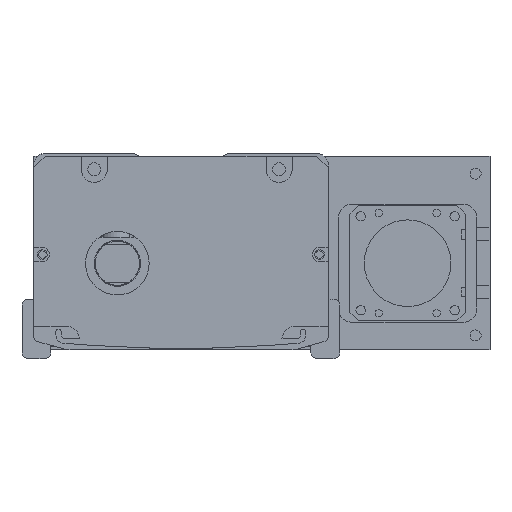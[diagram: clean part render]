
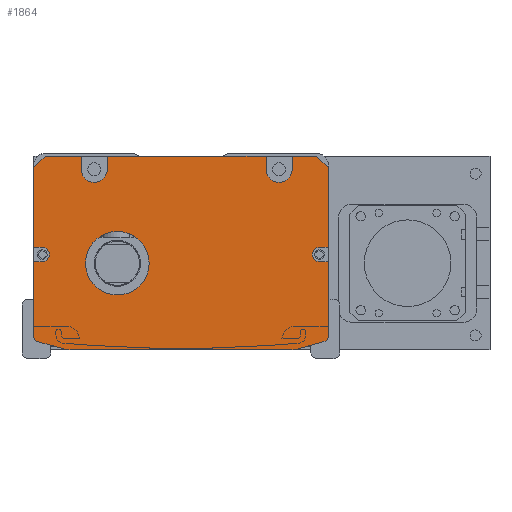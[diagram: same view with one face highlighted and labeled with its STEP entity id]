
A CAD part, front view. The second image highlights one B-rep face of the part: STEP entity #1864.
In plain terms, the highlighted planar face has unit normal (0, -1, 0).
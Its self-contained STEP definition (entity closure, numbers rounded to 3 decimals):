
#1864=ADVANCED_FACE('',(#4472,#4473),#2433,.F.);
#2433=PLANE('',#14301);
#2978=LINE('',#27368,#3779);
#2982=LINE('',#27377,#3783);
#2990=LINE('',#27404,#3791);
#2994=LINE('',#27413,#3795);
#3001=LINE('',#27429,#3802);
#3003=LINE('',#27434,#3804);
#3018=LINE('',#27477,#3819);
#3020=LINE('',#27485,#3821);
#3023=LINE('',#27489,#3824);
#3044=LINE('',#27557,#3845);
#3048=LINE('',#27566,#3849);
#3052=LINE('',#27575,#3853);
#3056=LINE('',#27584,#3857);
#3060=LINE('',#27600,#3861);
#3064=LINE('',#27606,#3865);
#3065=LINE('',#27607,#3866);
#3067=LINE('',#27623,#3868);
#3068=LINE('',#27624,#3869);
#3069=LINE('',#27625,#3870);
#3070=LINE('',#27626,#3871);
#3779=VECTOR('',#16883,1.);
#3783=VECTOR('',#16889,1.);
#3791=VECTOR('',#16911,1.);
#3795=VECTOR('',#16917,1.);
#3802=VECTOR('',#16926,1.);
#3804=VECTOR('',#16930,1.);
#3819=VECTOR('',#16969,1.);
#3821=VECTOR('',#16979,1.);
#3824=VECTOR('',#16984,1.);
#3845=VECTOR('',#17059,1.);
#3849=VECTOR('',#17065,1.);
#3853=VECTOR('',#17071,1.);
#3857=VECTOR('',#17077,1.);
#3861=VECTOR('',#17095,1.);
#3865=VECTOR('',#17099,1.);
#3866=VECTOR('',#17100,1.);
#3868=VECTOR('',#17124,1.);
#3869=VECTOR('',#17125,1.);
#3870=VECTOR('',#17126,1.);
#3871=VECTOR('',#17127,1.);
#4472=FACE_BOUND('',#5414,.T.);
#4473=FACE_BOUND('',#5415,.T.);
#5414=EDGE_LOOP('',(#7947,#7948,#7949,#7950,#7951,#7952,#7953,#7954,#7955,
#7956,#7957,#7958,#7959,#7960,#7961,#7962,#7963,#7964,#7965,#7966,#7967,
#7968,#7969,#7970,#7971,#7972,#7973,#7974));
#5415=EDGE_LOOP('',(#7975));
#7947=ORIENTED_EDGE('',*,*,#12052,.T.);
#7948=ORIENTED_EDGE('',*,*,#11929,.T.);
#7949=ORIENTED_EDGE('',*,*,#12039,.T.);
#7950=ORIENTED_EDGE('',*,*,#11956,.F.);
#7951=ORIENTED_EDGE('',*,*,#11993,.T.);
#7952=ORIENTED_EDGE('',*,*,#11958,.F.);
#7953=ORIENTED_EDGE('',*,*,#12044,.T.);
#7954=ORIENTED_EDGE('',*,*,#11945,.F.);
#7955=ORIENTED_EDGE('',*,*,#11990,.T.);
#7956=ORIENTED_EDGE('',*,*,#11949,.F.);
#7957=ORIENTED_EDGE('',*,*,#12043,.T.);
#7958=ORIENTED_EDGE('',*,*,#11933,.T.);
#7959=ORIENTED_EDGE('',*,*,#12053,.T.);
#7960=ORIENTED_EDGE('',*,*,#12023,.T.);
#7961=ORIENTED_EDGE('',*,*,#12051,.T.);
#7962=ORIENTED_EDGE('',*,*,#12019,.T.);
#7963=ORIENTED_EDGE('',*,*,#12054,.T.);
#7964=ORIENTED_EDGE('',*,*,#11976,.T.);
#7965=ORIENTED_EDGE('',*,*,#11979,.T.);
#7966=ORIENTED_EDGE('',*,*,#11982,.T.);
#7967=ORIENTED_EDGE('',*,*,#11983,.T.);
#7968=ORIENTED_EDGE('',*,*,#11939,.T.);
#7969=ORIENTED_EDGE('',*,*,#11986,.T.);
#7970=ORIENTED_EDGE('',*,*,#11941,.T.);
#7971=ORIENTED_EDGE('',*,*,#12055,.T.);
#7972=ORIENTED_EDGE('',*,*,#12031,.T.);
#7973=ORIENTED_EDGE('',*,*,#12050,.T.);
#7974=ORIENTED_EDGE('',*,*,#12027,.T.);
#7975=ORIENTED_EDGE('',*,*,#11995,.T.);
#10349=VERTEX_POINT('',#27369);
#10350=VERTEX_POINT('',#27370);
#10353=VERTEX_POINT('',#27378);
#10354=VERTEX_POINT('',#27379);
#10359=VERTEX_POINT('',#27390);
#10360=VERTEX_POINT('',#27392);
#10361=VERTEX_POINT('',#27396);
#10362=VERTEX_POINT('',#27397);
#10365=VERTEX_POINT('',#27405);
#10366=VERTEX_POINT('',#27406);
#10369=VERTEX_POINT('',#27414);
#10370=VERTEX_POINT('',#27415);
#10374=VERTEX_POINT('',#27424);
#10376=VERTEX_POINT('',#27428);
#10377=VERTEX_POINT('',#27432);
#10379=VERTEX_POINT('',#27435);
#10389=VERTEX_POINT('',#27465);
#10392=VERTEX_POINT('',#27470);
#10394=VERTEX_POINT('',#27476);
#10396=VERTEX_POINT('',#27482);
#10399=VERTEX_POINT('',#27508);
#10415=VERTEX_POINT('',#27555);
#10417=VERTEX_POINT('',#27558);
#10420=VERTEX_POINT('',#27565);
#10421=VERTEX_POINT('',#27567);
#10423=VERTEX_POINT('',#27573);
#10425=VERTEX_POINT('',#27576);
#10428=VERTEX_POINT('',#27583);
#10429=VERTEX_POINT('',#27585);
#11929=EDGE_CURVE('',#10349,#10350,#2978,.T.);
#11933=EDGE_CURVE('',#10353,#10354,#2982,.T.);
#11939=EDGE_CURVE('',#10360,#10359,#13140,.T.);
#11941=EDGE_CURVE('',#10361,#10362,#13141,.T.);
#11945=EDGE_CURVE('',#10365,#10366,#2990,.T.);
#11949=EDGE_CURVE('',#10369,#10370,#2994,.T.);
#11956=EDGE_CURVE('',#10376,#10374,#3001,.T.);
#11958=EDGE_CURVE('',#10377,#10379,#3003,.T.);
#11976=EDGE_CURVE('',#10389,#10392,#13148,.T.);
#11979=EDGE_CURVE('',#10392,#10394,#3018,.T.);
#11982=EDGE_CURVE('',#10394,#10396,#13150,.T.);
#11983=EDGE_CURVE('',#10396,#10360,#3020,.T.);
#11986=EDGE_CURVE('',#10359,#10361,#3023,.T.);
#11990=EDGE_CURVE('',#10365,#10370,#13153,.T.);
#11993=EDGE_CURVE('',#10376,#10379,#13156,.T.);
#11995=EDGE_CURVE('',#10399,#10399,#13157,.T.);
#12019=EDGE_CURVE('',#10417,#10415,#3044,.T.);
#12023=EDGE_CURVE('',#10421,#10420,#3048,.T.);
#12027=EDGE_CURVE('',#10425,#10423,#3052,.T.);
#12031=EDGE_CURVE('',#10429,#10428,#3056,.T.);
#12039=EDGE_CURVE('',#10350,#10374,#3060,.T.);
#12043=EDGE_CURVE('',#10369,#10353,#3064,.T.);
#12044=EDGE_CURVE('',#10377,#10366,#3065,.T.);
#12050=EDGE_CURVE('',#10428,#10425,#13171,.T.);
#12051=EDGE_CURVE('',#10420,#10417,#13172,.T.);
#12052=EDGE_CURVE('',#10423,#10349,#3067,.T.);
#12053=EDGE_CURVE('',#10354,#10421,#3068,.T.);
#12054=EDGE_CURVE('',#10415,#10389,#3069,.T.);
#12055=EDGE_CURVE('',#10362,#10429,#3070,.T.);
#13140=CIRCLE('',#14228,10.);
#13141=CIRCLE('',#14230,2.);
#13148=CIRCLE('',#14246,2.);
#13150=CIRCLE('',#14250,10.);
#13153=CIRCLE('',#14258,4.5);
#13156=CIRCLE('',#14263,4.5);
#13157=CIRCLE('',#14266,11.);
#13171=CIRCLE('',#14297,2.5);
#13172=CIRCLE('',#14299,2.5);
#14228=AXIS2_PLACEMENT_3D('',#27391,#16898,#16899);
#14230=AXIS2_PLACEMENT_3D('',#27395,#16903,#16904);
#14246=AXIS2_PLACEMENT_3D('',#27471,#16963,#16964);
#14250=AXIS2_PLACEMENT_3D('',#27483,#16975,#16976);
#14258=AXIS2_PLACEMENT_3D('',#27497,#16996,#16997);
#14263=AXIS2_PLACEMENT_3D('',#27503,#17006,#17007);
#14266=AXIS2_PLACEMENT_3D('',#27507,#17013,#17014);
#14297=AXIS2_PLACEMENT_3D('',#27619,#17116,#17117);
#14299=AXIS2_PLACEMENT_3D('',#27621,#17120,#17121);
#14301=AXIS2_PLACEMENT_3D('',#27627,#17128,#17129);
#16883=DIRECTION('',(-0.707,0.,0.707));
#16889=DIRECTION('',(-0.707,0.,-0.707));
#16898=DIRECTION('',(0.,-1.,0.));
#16899=DIRECTION('',(0.,0.,-1.));
#16903=DIRECTION('',(0.,-1.,0.));
#16904=DIRECTION('',(0.,0.,-1.));
#16911=DIRECTION('',(0.,0.,1.));
#16917=DIRECTION('',(0.,0.,-1.));
#16926=DIRECTION('',(0.,0.,1.));
#16930=DIRECTION('',(0.,0.,-1.));
#16963=DIRECTION('',(0.,-1.,0.));
#16964=DIRECTION('',(0.,0.,1.));
#16969=DIRECTION('',(0.963,0.,-0.269));
#16975=DIRECTION('',(0.,-1.,0.));
#16976=DIRECTION('',(0.,0.,1.));
#16979=DIRECTION('',(1.,0.,0.));
#16984=DIRECTION('',(0.963,0.,0.269));
#16996=DIRECTION('',(0.,1.,0.));
#16997=DIRECTION('',(0.,0.,1.));
#17006=DIRECTION('',(0.,1.,0.));
#17007=DIRECTION('',(0.,0.,1.));
#17013=DIRECTION('',(0.,1.,0.));
#17014=DIRECTION('',(0.,0.,1.));
#17059=DIRECTION('',(-1.,0.,0.));
#17065=DIRECTION('',(1.,0.,0.));
#17071=DIRECTION('',(1.,0.,0.));
#17077=DIRECTION('',(-1.,0.,0.));
#17095=DIRECTION('',(-1.,0.,0.));
#17099=DIRECTION('',(-1.,0.,0.));
#17100=DIRECTION('',(-1.,0.,0.));
#17116=DIRECTION('',(0.,1.,0.));
#17117=DIRECTION('',(0.,0.,1.));
#17120=DIRECTION('',(0.,1.,0.));
#17121=DIRECTION('',(0.,0.,1.));
#17124=DIRECTION('',(0.,0.,1.));
#17125=DIRECTION('',(0.,0.,-1.));
#17126=DIRECTION('',(0.,0.,-1.));
#17127=DIRECTION('',(0.,0.,1.));
#17128=DIRECTION('',(0.,1.,0.));
#17129=DIRECTION('',(-1.,0.,0.));
#27368=CARTESIAN_POINT('',(43.808,-767.5,-1.));
#27369=CARTESIAN_POINT('',(47.808,-767.5,-5.));
#27370=CARTESIAN_POINT('',(43.808,-767.5,-1.));
#27377=CARTESIAN_POINT('',(-54.192,-767.5,-5.));
#27378=CARTESIAN_POINT('',(-50.192,-767.5,-1.));
#27379=CARTESIAN_POINT('',(-54.192,-767.5,-5.));
#27390=CARTESIAN_POINT('',(37.424,-767.5,-67.631));
#27391=CARTESIAN_POINT('',(34.733,-767.5,-58.));
#27392=CARTESIAN_POINT('',(34.733,-767.5,-68.));
#27395=CARTESIAN_POINT('',(45.808,-767.5,-63.212));
#27396=CARTESIAN_POINT('',(46.346,-767.5,-65.138));
#27397=CARTESIAN_POINT('',(47.808,-767.5,-63.212));
#27404=CARTESIAN_POINT('',(-28.692,-767.5,-3.5));
#27405=CARTESIAN_POINT('',(-28.692,-767.5,-5.5));
#27406=CARTESIAN_POINT('',(-28.692,-767.5,-1.));
#27413=CARTESIAN_POINT('',(-37.692,-767.5,-1.));
#27414=CARTESIAN_POINT('',(-37.692,-767.5,-1.));
#27415=CARTESIAN_POINT('',(-37.692,-767.5,-5.5));
#27424=CARTESIAN_POINT('',(35.308,-767.5,-1.));
#27428=CARTESIAN_POINT('',(35.308,-767.5,-5.5));
#27429=CARTESIAN_POINT('',(35.308,-767.5,-1.));
#27432=CARTESIAN_POINT('',(26.308,-767.5,-1.));
#27434=CARTESIAN_POINT('',(26.308,-767.5,-1.));
#27435=CARTESIAN_POINT('',(26.308,-767.5,-5.5));
#27465=CARTESIAN_POINT('',(-54.192,-767.5,-63.212));
#27470=CARTESIAN_POINT('',(-52.731,-767.5,-65.138));
#27471=CARTESIAN_POINT('',(-52.192,-767.5,-63.212));
#27476=CARTESIAN_POINT('',(-43.809,-767.5,-67.631));
#27477=CARTESIAN_POINT('',(-55.807,-767.5,-64.279));
#27482=CARTESIAN_POINT('',(-41.118,-767.5,-68.));
#27483=CARTESIAN_POINT('',(-41.118,-767.5,-58.));
#27485=CARTESIAN_POINT('',(-54.692,-767.5,-68.));
#27489=CARTESIAN_POINT('',(49.422,-767.5,-64.279));
#27497=CARTESIAN_POINT('',(-33.192,-767.5,-5.5));
#27503=CARTESIAN_POINT('',(30.808,-767.5,-5.5));
#27507=CARTESIAN_POINT('',(-25.192,-767.5,-38.));
#27508=CARTESIAN_POINT('',(-25.192,-767.5,-27.));
#27555=CARTESIAN_POINT('',(-54.192,-767.5,-37.5));
#27557=CARTESIAN_POINT('',(-3.192,-767.5,-37.5));
#27558=CARTESIAN_POINT('',(-51.192,-767.5,-37.5));
#27565=CARTESIAN_POINT('',(-51.192,-767.5,-32.5));
#27566=CARTESIAN_POINT('',(-3.192,-767.5,-32.5));
#27567=CARTESIAN_POINT('',(-54.192,-767.5,-32.5));
#27573=CARTESIAN_POINT('',(47.808,-767.5,-32.5));
#27575=CARTESIAN_POINT('',(-3.192,-767.5,-32.5));
#27576=CARTESIAN_POINT('',(44.808,-767.5,-32.5));
#27583=CARTESIAN_POINT('',(44.808,-767.5,-37.5));
#27584=CARTESIAN_POINT('',(-3.192,-767.5,-37.5));
#27585=CARTESIAN_POINT('',(47.808,-767.5,-37.5));
#27600=CARTESIAN_POINT('',(-3.192,-767.5,-1.));
#27606=CARTESIAN_POINT('',(-54.192,-767.5,-1.));
#27607=CARTESIAN_POINT('',(-54.192,-767.5,-1.));
#27619=CARTESIAN_POINT('',(44.808,-767.5,-35.));
#27621=CARTESIAN_POINT('',(-51.192,-767.5,-35.));
#27623=CARTESIAN_POINT('',(47.808,-767.5,-1.));
#27624=CARTESIAN_POINT('',(-54.192,-767.5,-62.));
#27625=CARTESIAN_POINT('',(-54.192,-767.5,-62.));
#27626=CARTESIAN_POINT('',(47.808,-767.5,-1.));
#27627=CARTESIAN_POINT('',(-3.192,-767.5,-1.));
